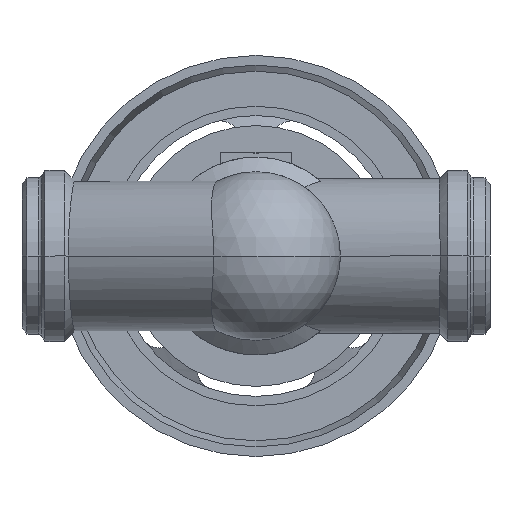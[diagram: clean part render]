
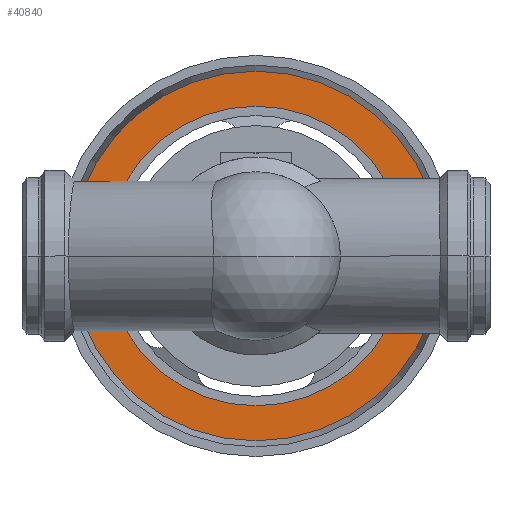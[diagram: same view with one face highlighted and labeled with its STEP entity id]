
A CAD part, front view. The second image highlights one B-rep face of the part: STEP entity #40840.
In plain terms, the highlighted planar face has unit normal (0, -1, 0).
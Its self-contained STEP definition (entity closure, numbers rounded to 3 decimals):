
#40290=CARTESIAN_POINT('',(36.802,487.9,0.));
#40300=VERTEX_POINT('',#40290);
#40330=CARTESIAN_POINT('',(175.,487.9,0.));
#40340=DIRECTION('',(0.,1.,0.));
#40350=DIRECTION('',(-1.,0.,0.));
#40360=AXIS2_PLACEMENT_3D('',#40330,#40340,#40350);
#40370=CIRCLE('',#40360,138.198);
#40380=CARTESIAN_POINT('',(313.198,487.9,0.));
#40390=VERTEX_POINT('',#40380);
#40400=EDGE_CURVE('',#40390,#40300,#40370,.T.);
#40590=CARTESIAN_POINT('',(49.901,487.9,0.))
;
#40600=DIRECTION('',(0.,-1.,0.));
#40610=DIRECTION('',(1.,0.,0.));
#40620=AXIS2_PLACEMENT_3D('',#40590,#40600,#40610);
#40630=PLANE('',#40620);
#40640=EDGE_CURVE('',#40300,#40390,#40370,.T.);
#40650=ORIENTED_EDGE('',*,*,#40640,.F.);
#40660=ORIENTED_EDGE('',*,*,#40400,.F.);
#40670=EDGE_LOOP('',(#40660,#40650));
#40680=FACE_OUTER_BOUND('',#40670,.T.);
#40690=CARTESIAN_POINT('',(175.,487.9,0.));
#40700=DIRECTION('',(0.,1.,0.));
#40710=DIRECTION('',(-1.,0.,0.));
#40720=AXIS2_PLACEMENT_3D('',#40690,#40700,#40710);
#40730=CIRCLE('',#40720,112.);
#40740=CARTESIAN_POINT('',(287.,487.9,0.));
#40750=VERTEX_POINT('',#40740);
#40760=CARTESIAN_POINT('',(63.,487.9,0.));
#40770=VERTEX_POINT('',#40760);
#40780=EDGE_CURVE('',#40750,#40770,#40730,.T.);
#40790=ORIENTED_EDGE('',*,*,#40780,.T.);
#40800=EDGE_CURVE('',#40770,#40750,#40730,.T.);
#40810=ORIENTED_EDGE('',*,*,#40800,.T.);
#40820=EDGE_LOOP('',(#40810,#40790));
#40830=FACE_BOUND('',#40820,.T.);
#40840=ADVANCED_FACE('',(#40680,#40830),#40630,.T.);
